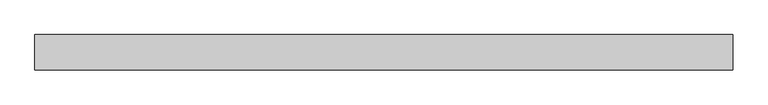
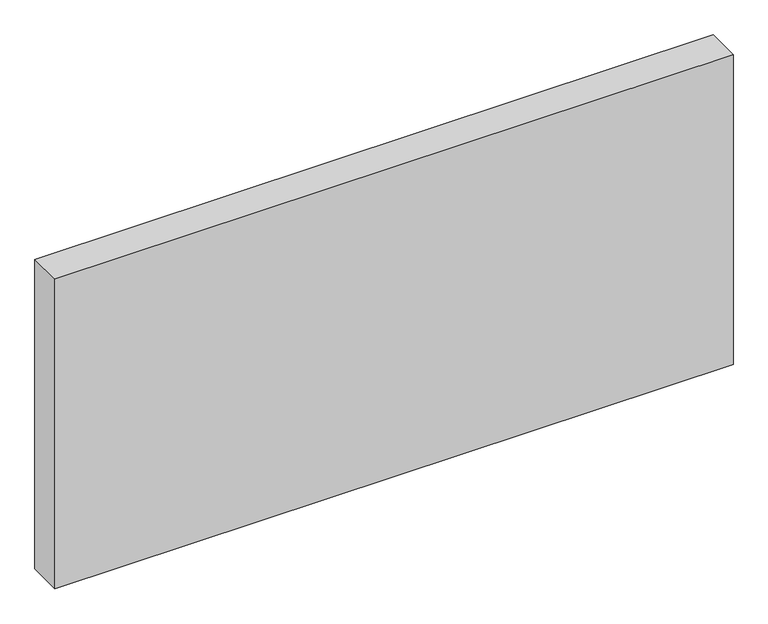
"""IFC4 building model written with IfcOpenShell, lengths in millimetres: plate geometry, Системная панель : Алюкобонд серый."""

from ifc_helpers import new_model, si_unit, origin, origin_with_axes, place, context, project, spatial, polyline, outline, extrude, source, transform, mapped, element, save


def plate_3a53edf4(model_context):
    return source(origin(), model_context, "Body", "SweptSolid", [
        extrude(outline(polyline([(590.0, -49.5), (-590.0, -49.5), (-590.0, 10.5), (590.0, 10.5), (590.0, -49.5)])), origin_with_axes(), (0.0, 0.0, 1.0), 570.0),
    ])


if __name__ == "__main__":
    model = new_model("IFC4")
    model_context = context("Model", 3, world=origin())
    ifc_project = project(units=[si_unit("LENGTHUNIT", "METRE", prefix="MILLI")], contexts=[model_context])
    site = spatial("IfcSite", under=ifc_project)
    building = spatial("IfcBuilding", under=site)
    placement = place(None, origin())
    plate_shape = plate_3a53edf4(model_context)
    element("IfcPlate", 1, ObjectType="Системная панель : Алюкобонд серый", at=placement, inside=building, context=model_context, shape_type="MappedRepresentation", body=[
        mapped(plate_shape, transform((0.0, 0.0, 0.0), x_axis=(1.0, 0.0, 0.0), y_axis=(0.0, 1.0, 0.0), z_axis=(0.0, 0.0, 1.0))),
    ])
    save(model, "model.ifc")
